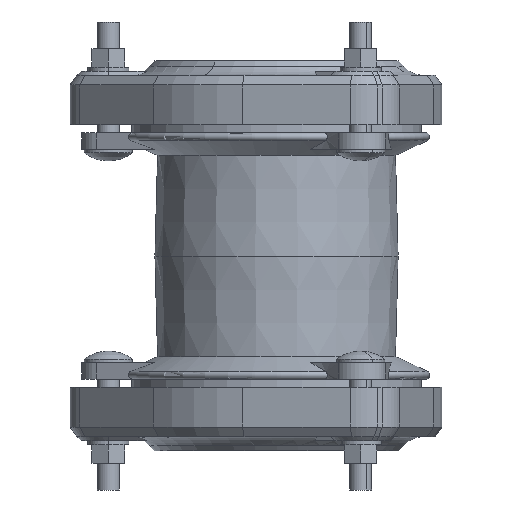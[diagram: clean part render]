
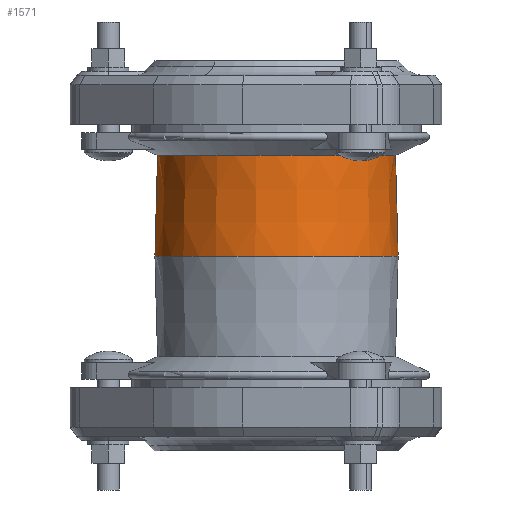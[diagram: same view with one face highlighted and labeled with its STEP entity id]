
A CAD part, left-side view. The second image highlights one B-rep face of the part: STEP entity #1571.
In plain terms, the highlighted conical face has half-angle 1.483 degrees and reference radius 87.901 mm.
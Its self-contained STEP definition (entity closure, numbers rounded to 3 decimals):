
#2=CARTESIAN_POINT('',(0.,0.,0.));
#3=DIRECTION('',(0.,0.,1.));
#4=DIRECTION('',(0.,1.,0.));
#5=AXIS2_PLACEMENT_3D('',#2,#3,#4);
#20=DIRECTION('',(0.,0.026,1.));
#21=VECTOR('',#20,73.502);
#22=CARTESIAN_POINT('',(0.,-88.852,0.));
#23=LINE('',#22,#21);
#24=DIRECTION('',(0.,-0.026,1.));
#25=VECTOR('',#24,73.502);
#26=CARTESIAN_POINT('',(0.,88.852,0.));
#27=LINE('',#26,#25);
#1120=CARTESIAN_POINT('',(0.,0.,73.478));
#1121=DIRECTION('',(0.,0.,1.));
#1122=DIRECTION('',(0.,1.,0.));
#1123=AXIS2_PLACEMENT_3D('',#1120,#1121,#1122);
#1289=CARTESIAN_POINT('',(0.,-86.95,
73.478));
#1291=VERTEX_POINT('',#1289);
#1293=CARTESIAN_POINT('',(0.,86.95,73.478));
#1294=VERTEX_POINT('',#1293);
#1523=CARTESIAN_POINT('',(0.,88.852,0.));
#1524=CARTESIAN_POINT('',(0.,-88.852,
0.));
#1525=VERTEX_POINT('',#1523);
#1526=VERTEX_POINT('',#1524);
#1556=CARTESIAN_POINT('',(0.,0.,36.739));
#1557=DIRECTION('',(0.,0.,-1.));
#1558=DIRECTION('',(0.,-1.,0.));
#1559=AXIS2_PLACEMENT_3D('',#1556,#1557,#1558);
#1560=CONICAL_SURFACE('',#1559,87.901,1.483);
#1562=ORIENTED_EDGE('',*,*,#1561,.F.);
#1564=ORIENTED_EDGE('',*,*,#1563,.T.);
#1566=ORIENTED_EDGE('',*,*,#1565,.T.);
#1568=ORIENTED_EDGE('',*,*,#1567,.F.);
#1569=EDGE_LOOP('',(#1562,#1564,#1566,#1568));
#1570=FACE_OUTER_BOUND('',#1569,.F.);
#1571=ADVANCED_FACE('',(#1570),#1560,.T.);
#6=CIRCLE('',#5,88.852);
#1124=CIRCLE('',#1123,86.95);
#1561=EDGE_CURVE('',#1525,#1526,#6,.T.);
#1563=EDGE_CURVE('',#1525,#1294,#27,.T.);
#1565=EDGE_CURVE('',#1294,#1291,#1124,.T.);
#1567=EDGE_CURVE('',#1526,#1291,#23,.T.);
